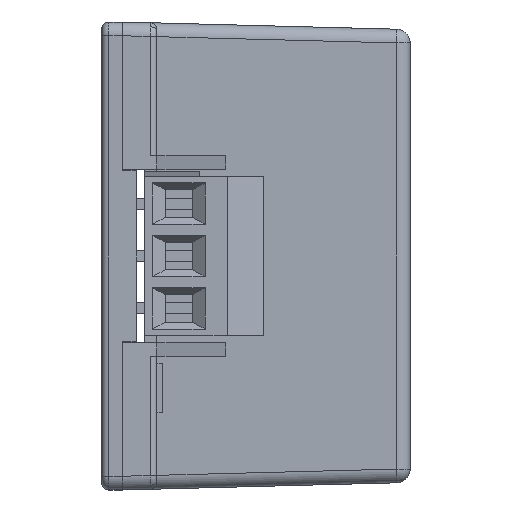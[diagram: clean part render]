
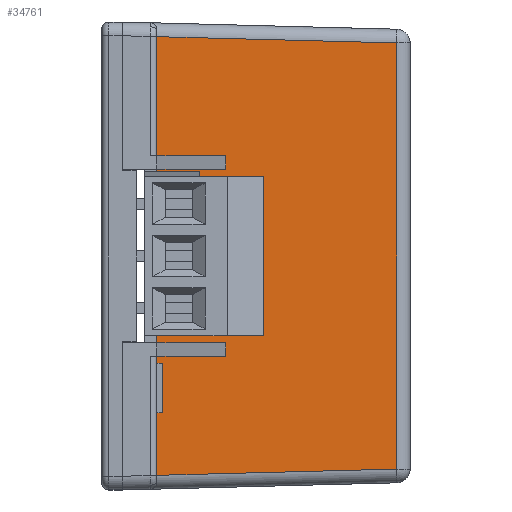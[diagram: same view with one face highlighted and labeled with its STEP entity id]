
A CAD part, left-side view. The second image highlights one B-rep face of the part: STEP entity #34761.
In plain terms, the highlighted planar face has unit normal (-1, -0.026, 0).
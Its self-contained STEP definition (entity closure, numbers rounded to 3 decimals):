
#39 = VERTEX_POINT ( 'NONE', #5811 ) ;
#43 = EDGE_CURVE ( 'NONE', #34867, #39, #5801, .T. ) ;
#5795 = DIRECTION ( 'NONE',  ( 0., 0., -1. ) ) ;
#5796 = VECTOR ( 'NONE', #5795, 1000. ) ;
#5797 = CARTESIAN_POINT ( 'NONE',  ( -29.7, -2.5, -16.935 ) ) ;
#5801 = LINE ( 'NONE', #5797, #5796 ) ;
#5811 = CARTESIAN_POINT ( 'NONE',  ( -29.7, -2.5, -15.935 ) ) ;
#9309 = CARTESIAN_POINT ( 'NONE',  ( -29.569, -7.5, 7.3 ) ) ;
#9314 = CARTESIAN_POINT ( 'NONE',  ( -29.7, -2.5, 7.3 ) ) ;
#9323 = CARTESIAN_POINT ( 'NONE',  ( -29.244, -19.926, -15.479 ) ) ;
#9324 = DIRECTION ( 'NONE',  ( 0., 0., 1. ) ) ;
#9325 = VECTOR ( 'NONE', #9324, 1000. ) ;
#9326 = CARTESIAN_POINT ( 'NONE',  ( -29.244, -19.926, -16.935 ) ) ;
#9327 = LINE ( 'NONE', #9326, #9325 ) ;
#9328 = DIRECTION ( 'NONE',  ( 0.026, -1., 0. ) ) ;
#9329 = VECTOR ( 'NONE', #9328, 1000. ) ;
#9330 = CARTESIAN_POINT ( 'NONE',  ( -29.569, -7.5, 7.3 ) ) ;
#9331 = LINE ( 'NONE', #9330, #9329 ) ;
#9478 = CARTESIAN_POINT ( 'NONE',  ( -29.244, -19.926, 15.479 ) ) ;
#10750 = CARTESIAN_POINT ( 'NONE',  ( -29.569, -7.5, -6.3 ) ) ;
#10782 = DIRECTION ( 'NONE',  ( 0.026, -1., 0. ) ) ;
#10783 = VECTOR ( 'NONE', #10782, 1000. ) ;
#10784 = CARTESIAN_POINT ( 'NONE',  ( -29.569, -7.5, -6.3 ) ) ;
#10795 = DIRECTION ( 'NONE',  ( 0., 0., -1. ) ) ;
#10796 = VECTOR ( 'NONE', #10795, 1000. ) ;
#10797 = CARTESIAN_POINT ( 'NONE',  ( -29.7, -2.5, -16.935 ) ) ;
#10798 = LINE ( 'NONE', #10797, #10796 ) ;
#10808 = CARTESIAN_POINT ( 'NONE',  ( -29.569, -7.5, -7.3 ) ) ;
#10823 = LINE ( 'NONE', #10784, #10783 ) ;
#10878 = DIRECTION ( 'NONE',  ( -0.026, 0.999, 0.026 ) ) ;
#10879 = VECTOR ( 'NONE', #10878, 1000. ) ;
#10880 = CARTESIAN_POINT ( 'NONE',  ( -29.701, -2.474, 15.936 ) ) ;
#10881 = LINE ( 'NONE', #10880, #10879 ) ;
#10882 = DIRECTION ( 'NONE',  ( 0.026, -1., 0. ) ) ;
#10883 = DIRECTION ( 'NONE',  ( -1., -0.026, 0. ) ) ;
#10884 = CARTESIAN_POINT ( 'NONE',  ( -29.7, -2.5, -16.935 ) ) ;
#10885 = AXIS2_PLACEMENT_3D ( 'NONE', #10884, #10883, #10882 ) ;
#10886 = PLANE ( 'NONE',  #10885 ) ;
#10887 = FACE_OUTER_BOUND ( 'NONE', #34762, .T. ) ;
#11079 = DIRECTION ( 'NONE',  ( 0., 0., -1. ) ) ;
#11080 = VECTOR ( 'NONE', #11079, 1000. ) ;
#11125 = CARTESIAN_POINT ( 'NONE',  ( -29.7, -2.5, 15.935 ) ) ;
#11139 = CARTESIAN_POINT ( 'NONE',  ( -29.569, -7.5, -7.3 ) ) ;
#11160 = CARTESIAN_POINT ( 'NONE',  ( -29.7, -2.5, -7.3 ) ) ;
#11196 = LINE ( 'NONE', #11139, #11302 ) ;
#11204 = DIRECTION ( 'NONE',  ( 0.026, -1., 0. ) ) ;
#11215 = CARTESIAN_POINT ( 'NONE',  ( -29.7, -2.5, -16.935 ) ) ;
#11216 = LINE ( 'NONE', #11215, #11080 ) ;
#11302 = VECTOR ( 'NONE', #11204, 1000. ) ;
#11516 = VECTOR ( 'NONE', #11740, 1000. ) ;
#11538 = CARTESIAN_POINT ( 'NONE',  ( -29.7, -2.5, -6.3 ) ) ;
#11546 = LINE ( 'NONE', #11652, #11516 ) ;
#11559 = DIRECTION ( 'NONE',  ( 0., 0., 1. ) ) ;
#11561 = VECTOR ( 'NONE', #11559, 1000. ) ;
#11563 = CARTESIAN_POINT ( 'NONE',  ( -29.569, -7.5, -7.3 ) ) ;
#11619 = LINE ( 'NONE', #11563, #11561 ) ;
#11630 = DIRECTION ( 'NONE',  ( 0.026, -1., 0. ) ) ;
#11638 = DIRECTION ( 'NONE',  ( 0.026, -0.999, 0.026 ) ) ;
#11640 = VECTOR ( 'NONE', #11638, 1000. ) ;
#11642 = CARTESIAN_POINT ( 'NONE',  ( -29.219, -20.874, -15.454 ) ) ;
#11643 = LINE ( 'NONE', #11642, #11640 ) ;
#11652 = CARTESIAN_POINT ( 'NONE',  ( -29.569, -7.5, 7.3 ) ) ;
#11677 = CARTESIAN_POINT ( 'NONE',  ( -29.569, -7.5, 6.3 ) ) ;
#11694 = CARTESIAN_POINT ( 'NONE',  ( -29.7, -2.5, 6.3 ) ) ;
#11740 = DIRECTION ( 'NONE',  ( 0., 0., -1. ) ) ;
#11742 = VECTOR ( 'NONE', #11630, 1000. ) ;
#11744 = CARTESIAN_POINT ( 'NONE',  ( -29.569, -7.5, 6.3 ) ) ;
#11774 = LINE ( 'NONE', #11744, #11742 ) ;
#34448 = EDGE_CURVE ( 'NONE', #34462, #34463, #9331, .T. ) ;
#34450 = EDGE_CURVE ( 'NONE', #34451, #34474, #9327, .T. ) ;
#34451 = VERTEX_POINT ( 'NONE', #9323 ) ;
#34462 = VERTEX_POINT ( 'NONE', #9314 ) ;
#34463 = VERTEX_POINT ( 'NONE', #9309 ) ;
#34474 = VERTEX_POINT ( 'NONE', #9478 ) ;
#34746 = VERTEX_POINT ( 'NONE', #10808 ) ;
#34748 = ORIENTED_EDGE ( 'NONE', *, *, #34749, .T. ) ;
#34749 = EDGE_CURVE ( 'NONE', #34979, #34750, #10823, .T. ) ;
#34750 = VERTEX_POINT ( 'NONE', #10750 ) ;
#34755 = EDGE_CURVE ( 'NONE', #34981, #34979, #10798, .T. ) ;
#34761 = ADVANCED_FACE ( 'NONE', ( #10887 ), #10886, .T. ) ;
#34762 = EDGE_LOOP ( 'NONE', ( #34763, #34764, #34766, #34767, #35010, #35011, #35013, #34748, #35071, #35067, #35087, #35033 ) ) ;
#34763 = ORIENTED_EDGE ( 'NONE', *, *, #34450, .T. ) ;
#34764 = ORIENTED_EDGE ( 'NONE', *, *, #34765, .T. ) ;
#34765 = EDGE_CURVE ( 'NONE', #34474, #34892, #10881, .T. ) ;
#34766 = ORIENTED_EDGE ( 'NONE', *, *, #34901, .T. ) ;
#34767 = ORIENTED_EDGE ( 'NONE', *, *, #34448, .T. ) ;
#34867 = VERTEX_POINT ( 'NONE', #11160 ) ;
#34873 = EDGE_CURVE ( 'NONE', #34867, #34746, #11196, .T. ) ;
#34892 = VERTEX_POINT ( 'NONE', #11125 ) ;
#34901 = EDGE_CURVE ( 'NONE', #34892, #34462, #11216, .T. ) ;
#34979 = VERTEX_POINT ( 'NONE', #11538 ) ;
#34981 = VERTEX_POINT ( 'NONE', #11694 ) ;
#34992 = EDGE_CURVE ( 'NONE', #34463, #35002, #11546, .T. ) ;
#35002 = VERTEX_POINT ( 'NONE', #11677 ) ;
#35010 = ORIENTED_EDGE ( 'NONE', *, *, #34992, .T. ) ;
#35011 = ORIENTED_EDGE ( 'NONE', *, *, #35012, .F. ) ;
#35012 = EDGE_CURVE ( 'NONE', #34981, #35002, #11774, .T. ) ;
#35013 = ORIENTED_EDGE ( 'NONE', *, *, #34755, .T. ) ;
#35033 = ORIENTED_EDGE ( 'NONE', *, *, #35080, .T. ) ;
#35067 = ORIENTED_EDGE ( 'NONE', *, *, #34873, .F. ) ;
#35070 = EDGE_CURVE ( 'NONE', #34746, #34750, #11619, .T. ) ;
#35071 = ORIENTED_EDGE ( 'NONE', *, *, #35070, .F. ) ;
#35080 = EDGE_CURVE ( 'NONE', #39, #34451, #11643, .T. ) ;
#35087 = ORIENTED_EDGE ( 'NONE', *, *, #43, .T. ) ;
